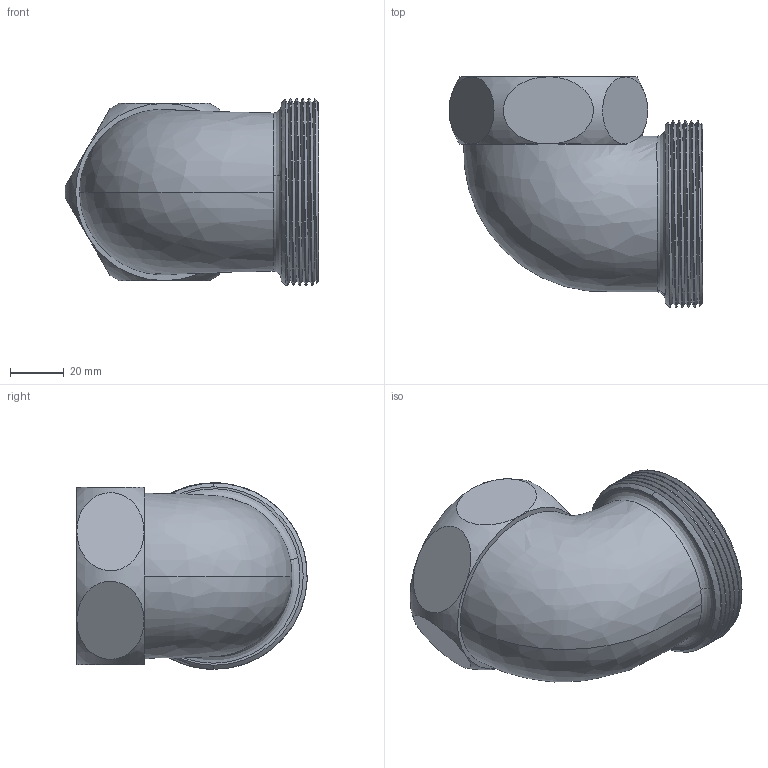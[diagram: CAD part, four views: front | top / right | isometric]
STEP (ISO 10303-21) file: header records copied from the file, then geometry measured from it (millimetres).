
FILE_DESCRIPTION (( 'STEP AP203' ), '1' );
FILE_NAME ('2X238.STEP', '2012-07-03T00:01:01', ( 'Administrators' ), ( 'JUJUMAO' ), 'SwSTEP 2.0', 'SolidWorks 2008', '' );
FILE_SCHEMA (( 'CONFIG_CONTROL_DESIGN' ));
Length unit declared in the file: millimetre
Products named in the file (1): 2X238
Bounding box: 94.44 x 85.66 x 69.4 mm (x, y, z)
Volume: 72219.9 mm3; surface area: 44788.3 mm2
Topology: 2 solids, 2 shells, 76 faces, 259 edges, 190 vertices
Faces by surface type: bspline 30, cylinder 16, plane 14, cone 8, torus 8
Entity records: 15655 total; most frequent: CARTESIAN_POINT 13865, ORIENTED_EDGE 518, EDGE_CURVE 259, VERTEX_POINT 190, DIRECTION 181, B_SPLINE_CURVE_WITH_KNOTS 90, EDGE_LOOP 81, AXIS2_PLACEMENT_3D 77
